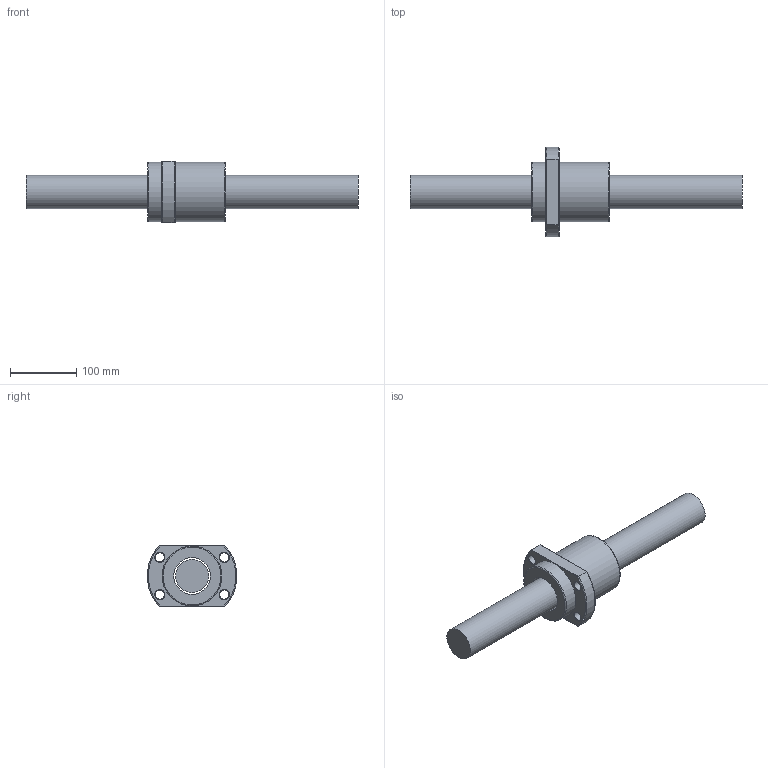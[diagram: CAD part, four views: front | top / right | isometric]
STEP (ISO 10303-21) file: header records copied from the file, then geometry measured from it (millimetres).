
FILE_DESCRIPTION (( 'STEP AP203' ), '1' );
FILE_NAME ('SFY05050-3.6.step', '2024-05-21T08:57:39', ( '' ), ( '' ), 'SwSTEP 2.0', 'SolidWorks 2022', '' );
FILE_SCHEMA (( 'CONFIG_CONTROL_DESIGN' ));
Length unit declared in the file: millimetre
Products named in the file (1): SFY05050-3.6
Bounding box: 500 x 134.77 x 92 mm (x, y, z)
Volume: 1533760.3 mm3; surface area: 158050.8 mm2
Topology: 2 solids, 2 shells, 51 faces, 123 edges, 78 vertices
Faces by surface type: cylinder 18, plane 13, cone 9, torus 6, bspline 5
Full cylindrical faces by diameter (mm): 4 x1, 5 x6, 14 x4, 50 x1, 55.1 x1, 90 x2
Entity records: 3009 total; most frequent: CARTESIAN_POINT 2048, DIRECTION 170, ORIENTED_EDGE 156, EDGE_LOOP 80, EDGE_CURVE 78, AXIS2_PLACEMENT_3D 77, VERTEX_POINT 62, FACE_OUTER_BOUND 57
